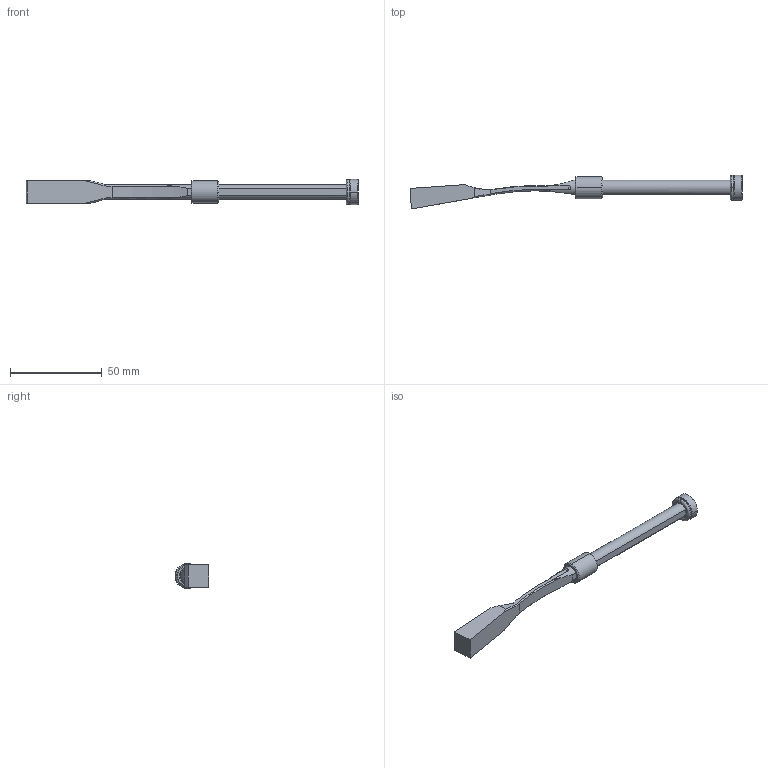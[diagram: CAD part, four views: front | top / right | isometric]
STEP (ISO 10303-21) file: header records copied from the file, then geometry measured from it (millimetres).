
FILE_DESCRIPTION (( 'STEP AP214' ), '1' );
FILE_NAME ('PW081230.STEP', '2020-02-10T08:47:29', ( '' ), ( '' ), 'SwSTEP 2.0', 'SolidWorks 2018', '' );
FILE_SCHEMA (( 'AUTOMOTIVE_DESIGN' ));
Length unit declared in the file: millimetre
Products named in the file (6): 9CS081215; PW081230; 9FP1406M5; 9PW081230; 1DIN7984516_DIN 7984 - M5 x 16 --- 16C; 3JT9.5X2X13.5
Assembly tree (5 placements, depth 2):
  PW081230
    9PW081230
    9CS081215
    9FP1406M5
    3JT9.5X2X13.5
    1DIN7984516_DIN 7984 - M5 x 16 --- 16C
Bounding box: 180.5 x 18.47 x 13.8 mm (x, y, z)
Volume: 11316.4 mm3; surface area: 7774.4 mm2
Topology: 5 solids, 5 shells, 107 faces, 240 edges, 142 vertices
Faces by surface type: plane 37, cone 28, cylinder 24, torus 16, bspline 2
Entity records: 3558 total; most frequent: CARTESIAN_POINT 667, DIRECTION 552, ORIENTED_EDGE 472, EDGE_CURVE 236, AXIS2_PLACEMENT_3D 221, VERTEX_POINT 142, EDGE_LOOP 116, LINE 110
